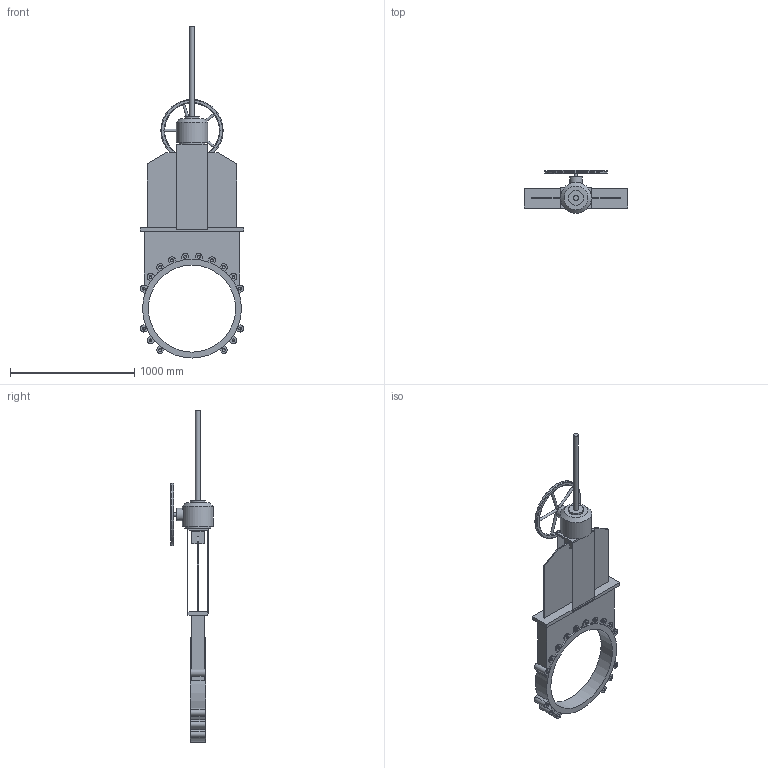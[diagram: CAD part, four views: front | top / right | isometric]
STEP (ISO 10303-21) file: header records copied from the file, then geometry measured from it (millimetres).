
FILE_DESCRIPTION(('STEP AP203'), '1');
FILE_NAME('Çàäâèæêà øèáåðíàÿ K51GV DN700 ðåäóêòîð+âûäâèæíîé øïèíäåëü', '', ('UNSPECIFIED'), ('UNSPECIFIED'), 'ASCON STEP Converter 1.6', 'ASCON Math Kernel', '');
FILE_SCHEMA(('CONFIG_CONTROL_DESIGN'));
Length unit declared in the file: millimetre
Bounding box: 831.01 x 345 x 2667 mm (x, y, z)
Volume: 63568484.9 mm3; surface area: 3889849.4 mm2
Topology: 1 solids, 1 shells, 259 faces, 704 edges, 450 vertices
Faces by surface type: plane 141, cylinder 81, cone 33, torus 4
Full cylindrical faces by diameter (mm): 20 x5, 23.752 x32, 30 x1, 40 x2, 100 x1, 120 x1, 210 x1, 250 x1, 500 x1, 700 x1, 794 x1
Entity records: 11933 total; most frequent: CARTESIAN_POINT 3746, DIRECTION 1276, ORIENTED_EDGE 1174, EDGE_CURVE 587, AXIS2_PLACEMENT_3D 481, VERTEX_POINT 418, EDGE_LOOP 363, LINE 314
